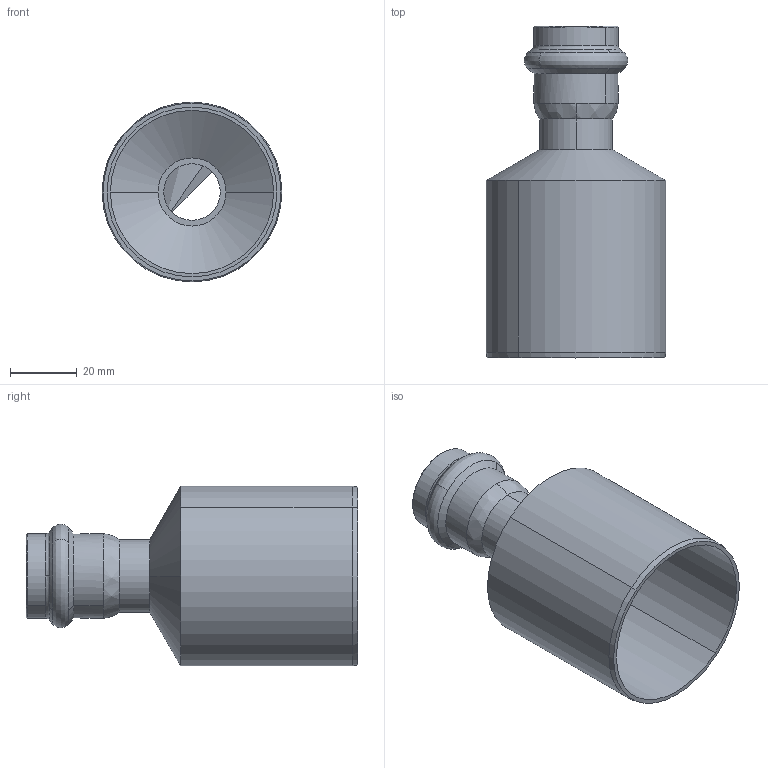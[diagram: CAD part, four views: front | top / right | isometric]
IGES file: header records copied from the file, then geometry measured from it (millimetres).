
Start section: Elysium IGES Interface
Global section: file name: C:\3d modellen sudo\C-Pr VP\SP8243V\8243VW5422.igs; native system: CoCreate Modeling 17.00A  17-Jun-2010; preprocessor: CoCreate IGES_3D V2.2; author: Unknown; organization: Unknown; date: 20130305.094333; units: millimetre
Bounding box: 54 x 99.64 x 54 mm (x, y, z)
Surface area: 27960.3 mm2 (no closed solid volume)
Topology: 0 solids, 1 shells, 58 faces, 137 edges, 85 vertices
Faces by surface type: bspline 58
